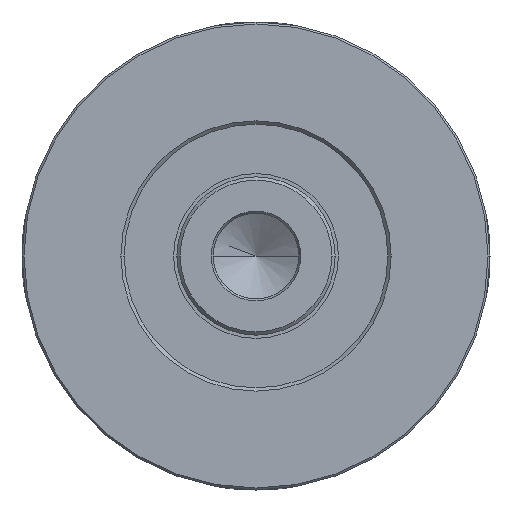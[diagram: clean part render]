
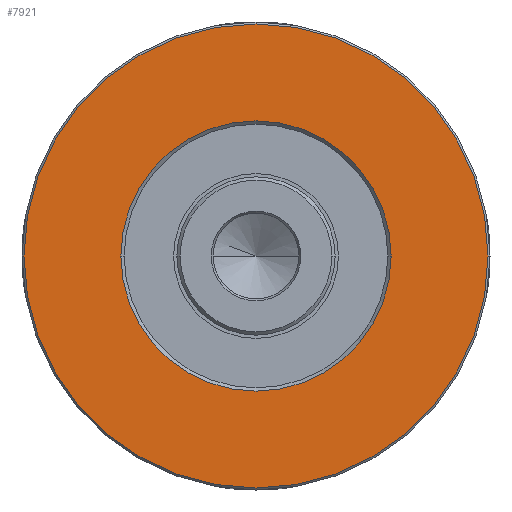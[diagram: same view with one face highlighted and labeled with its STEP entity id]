
A CAD part, left-side view. The second image highlights one B-rep face of the part: STEP entity #7921.
In plain terms, the highlighted planar face has unit normal (-1, 0, 0).
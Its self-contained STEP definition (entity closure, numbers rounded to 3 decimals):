
#7334=CARTESIAN_POINT('',(-4.,0.,0.));
#7335=DIRECTION('',(-1.,0.,0.));
#7336=DIRECTION('',(0.,1.,0.));
#7337=AXIS2_PLACEMENT_3D('',#7334,#7335,#7336);
#7342=CARTESIAN_POINT('',(-4.,0.,0.));
#7343=DIRECTION('',(1.,0.,0.));
#7344=DIRECTION('',(0.,1.,0.));
#7345=AXIS2_PLACEMENT_3D('',#7342,#7343,#7344);
#7350=CARTESIAN_POINT('',(-4.,0.,0.));
#7351=DIRECTION('',(1.,0.,0.));
#7352=DIRECTION('',(0.,1.,0.));
#7353=AXIS2_PLACEMENT_3D('',#7350,#7351,#7352);
#7372=CARTESIAN_POINT('',(-4.,0.,0.));
#7373=DIRECTION('',(-1.,0.,0.));
#7374=DIRECTION('',(0.,1.,0.));
#7375=AXIS2_PLACEMENT_3D('',#7372,#7373,#7374);
#7448=CARTESIAN_POINT('',(-4.,20.5,0.));
#7449=VERTEX_POINT('',#7448);
#7450=CARTESIAN_POINT('',(-4.,-20.5,0.));
#7451=VERTEX_POINT('',#7450);
#7452=CARTESIAN_POINT('',(-4.,35.2,0.));
#7453=VERTEX_POINT('',#7452);
#7454=CARTESIAN_POINT('',(-4.,-35.2,0.));
#7455=VERTEX_POINT('',#7454);
#7906=CARTESIAN_POINT('',(-4.,0.,0.));
#7907=DIRECTION('',(1.,0.,0.));
#7908=DIRECTION('',(0.,-1.,0.));
#7909=AXIS2_PLACEMENT_3D('',#7906,#7907,#7908);
#7910=PLANE('',#7909);
#7911=ORIENTED_EDGE('',*,*,#7885,.F.);
#7912=ORIENTED_EDGE('',*,*,#7901,.T.);
#7913=EDGE_LOOP('',(#7911,#7912));
#7914=FACE_OUTER_BOUND('',#7913,.F.);
#7916=ORIENTED_EDGE('',*,*,#7915,.F.);
#7918=ORIENTED_EDGE('',*,*,#7917,.T.);
#7919=EDGE_LOOP('',(#7916,#7918));
#7920=FACE_BOUND('',#7919,.F.);
#7338=CIRCLE('',#7337,35.2);
#7346=CIRCLE('',#7345,35.2);
#7354=CIRCLE('',#7353,20.5);
#7376=CIRCLE('',#7375,20.5);
#7885=EDGE_CURVE('',#7453,#7455,#7338,.T.);
#7901=EDGE_CURVE('',#7453,#7455,#7346,.T.);
#7915=EDGE_CURVE('',#7449,#7451,#7354,.T.);
#7917=EDGE_CURVE('',#7449,#7451,#7376,.T.);
#7921=ADVANCED_FACE('',(#7914,#7920),#7910,.F.);
